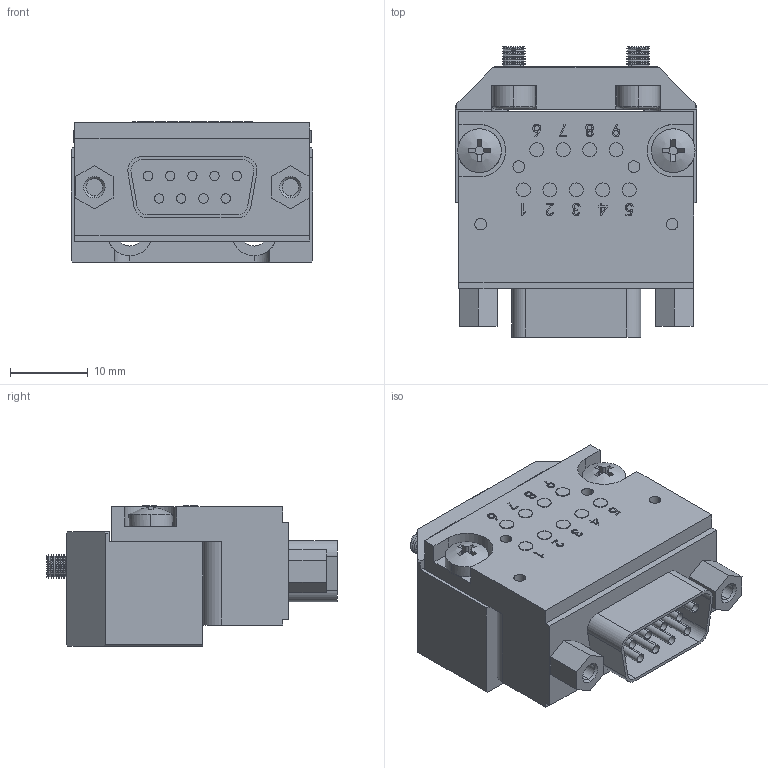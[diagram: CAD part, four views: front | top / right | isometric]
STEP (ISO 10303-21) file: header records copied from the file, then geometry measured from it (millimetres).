
FILE_DESCRIPTION (( 'STEP AP203' ), '1' );
FILE_NAME ('QCSM-9R4.STEP', '2024-04-15T06:02:06', ( '微软用户' ), ( '微软中国' ), 'SwSTEP 2.0', 'SolidWorks 2018', '' );
FILE_SCHEMA (( 'CONFIG_CONTROL_DESIGN' ));
Length unit declared in the file: millimetre
Products named in the file (1): QCSM-9R4
Bounding box: 31 x 37.3 x 18 mm (x, y, z)
Surface area: 6890.4 mm2 (no closed solid volume)
Topology: 0 solids, 13 shells, 750 faces, 1801 edges, 1126 vertices
Faces by surface type: plane 274, cylinder 232, cone 203, bspline 41
Entity records: 23043 total; most frequent: CARTESIAN_POINT 5655, DIRECTION 3630, ORIENTED_EDGE 3576, EDGE_CURVE 1797, AXIS2_PLACEMENT_3D 1347, VERTEX_POINT 1126, VECTOR 936, LINE 936
